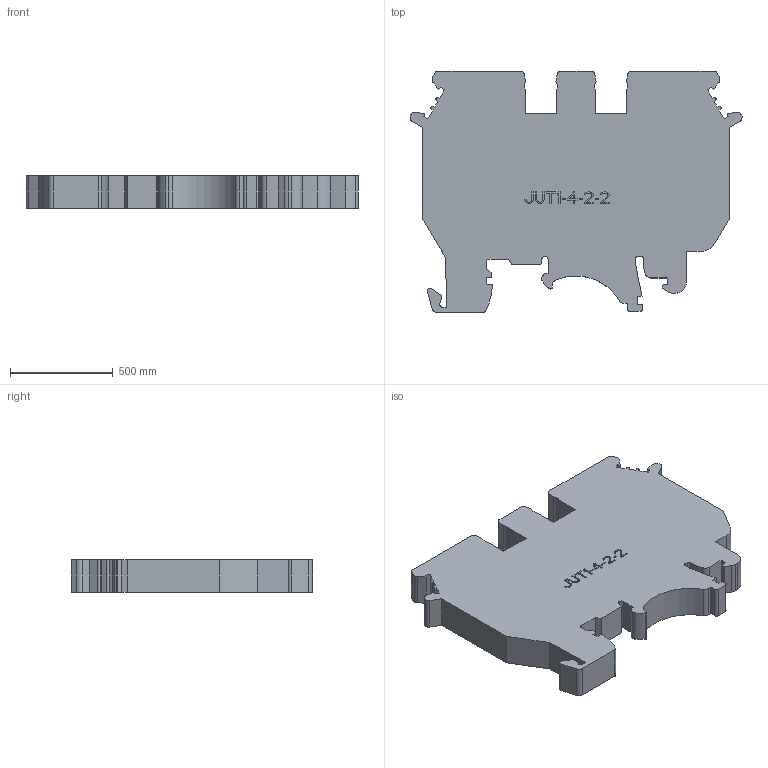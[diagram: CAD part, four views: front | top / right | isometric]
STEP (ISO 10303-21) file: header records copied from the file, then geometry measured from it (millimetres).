
FILE_DESCRIPTION((''),'2;1');
FILE_NAME('PRT0001','2022-04-18T',('Administrator'),(''),'PRO/ENGINEER BY PARAMETRIC TECHNOLOGY CORPORATION, 2008020','PRO/ENGINEER BY PARAMETRIC TECHNOLOGY CORPORATION, 2008020','');
FILE_SCHEMA(('CONFIG_CONTROL_DESIGN'));
Length unit declared in the file: inch
Products named in the file (1): PRT0001
Bounding box: 1612.9 x 1170.94 x 157.48 mm (x, y, z)
Volume: 219849336.8 mm3; surface area: 4059801.4 mm2
Topology: 1 solids, 1 shells, 302 faces, 867 edges, 578 vertices
Faces by surface type: plane 263, cylinder 39
Entity records: 9789 total; most frequent: CARTESIAN_POINT 1747, ORIENTED_EDGE 1734, DIRECTION 1549, EDGE_CURVE 867, VECTOR 789, LINE 789, VERTEX_POINT 578, AXIS2_PLACEMENT_3D 380
